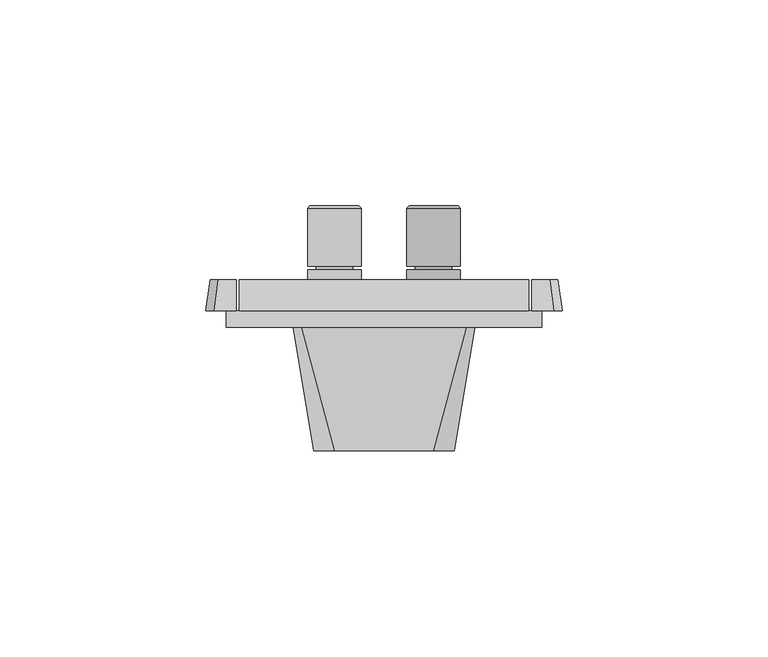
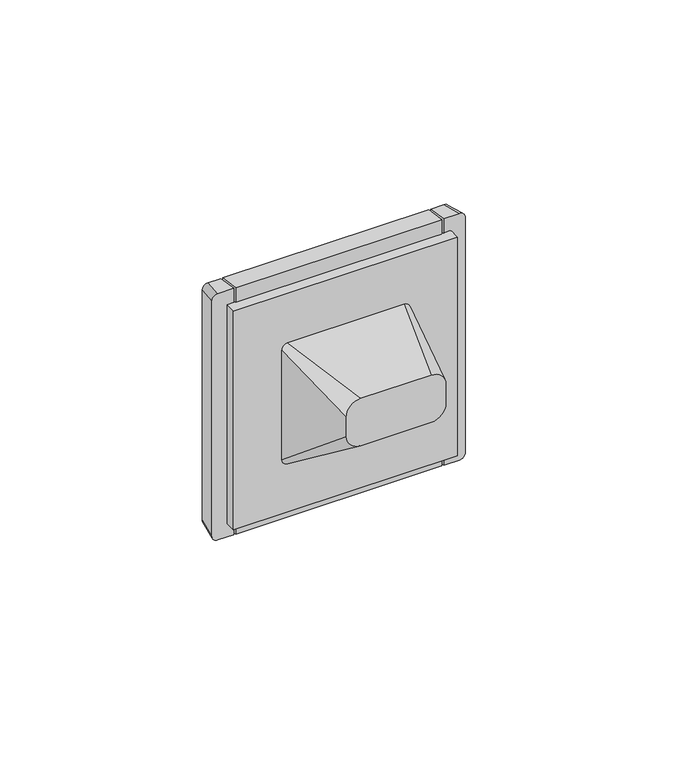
"""IFC4 building model written with IfcOpenShell, lengths in millimetres: proxy geometry, IEK_Forte&Piano_Розекта мультимедийная : АС_FP139."""

from ifc_helpers import new_model, si_unit, point, frame, origin, place, context, project, spatial, polyline, circle_curve, trimmed, faceted_brep, source, transform, mapped, element, save
from ifc_brep_helpers import plane_surface, cylinder_surface, revolved_surface, extruded_surface, spline_surface, advanced_brep


def electrical_fixtures_4fc81f4c(model_context):
    return source(origin(), model_context, "Body", "SolidModel", [
        advanced_brep(
        [(-18.5532632, 11.5, -13.75), (-5.5708837, 11.5, -13.75), (-8.6401103, 11.5, -13.75), (-15.4840366, 11.5, -13.75), (-8.6401103, 29.4463072, -13.75), (-15.4840366, 29.4463072, -13.75), (-6.1425627, 29.4463072, -13.75), (-17.9815842, 29.4463072, -13.75), (-5.5708837, 28.8746282, -13.75), (-18.5532632, 28.8746282, -13.75), (-5.5708837, 14.794806, -13.75), (-18.5532632, 14.794806, -13.75), (-7.6404981, 14.794806, -13.75), (-16.4836488, 14.794806, -13.75), (-7.6404981, 13.9143578, -13.75), (-16.4836488, 13.9143578, -13.75), (-5.5708837, 13.9143578, -13.75), (-18.5532632, 13.9143578, -13.75)],
        [
            (0, 1, circle_curve(frame((-12.0620735, 11.5, -13.75), z_axis=(0.0, -1.0, 0.0), x_axis=(-1.0, 0.0, 0.0)), 6.4911898)),
            (1, 0, circle_curve(frame((-12.0620735, 11.5, -13.75), z_axis=(0.0, -1.0, 0.0), x_axis=(-1.0, 0.0, 0.0)), 6.4911898)),
            (2, 3, circle_curve(frame((-12.0620735, 11.5, -13.75), z_axis=(0.0, 1.0, 0.0), x_axis=(-1.0, 0.0, 0.0)), 3.4219631)),
            (3, 2, circle_curve(frame((-12.0620735, 11.5, -13.75), z_axis=(0.0, 1.0, 0.0), x_axis=(-1.0, 0.0, 0.0)), 3.4219631)),
            (4, 5, circle_curve(frame((-12.0620735, 29.4463072, -13.75), z_axis=(0.0, 1.0, 0.0), x_axis=(-1.0, 0.0, 0.0)), 3.4219631)),
            (5, 3),
            (2, 4),
            (5, 4, circle_curve(frame((-12.0620735, 29.4463072, -13.75), z_axis=(0.0, 1.0, 0.0), x_axis=(-1.0, 0.0, 0.0)), 3.4219631)),
            (4, 6),
            (6, 7, circle_curve(frame((-12.0620735, 29.4463072, -13.75), z_axis=(0.0, 1.0, 0.0), x_axis=(-1.0, 0.0, 0.0)), 5.9195108)),
            (7, 5),
            (7, 6, circle_curve(frame((-12.0620735, 29.4463072, -13.75), z_axis=(0.0, 1.0, 0.0), x_axis=(-1.0, 0.0, 0.0)), 5.9195108)),
            (6, 8),
            (8, 9, circle_curve(frame((-12.0620735, 28.8746282, -13.75), z_axis=(0.0, 1.0, 0.0), x_axis=(-1.0, 0.0, 0.0)), 6.4911898)),
            (9, 7),
            (9, 8, circle_curve(frame((-12.0620735, 28.8746282, -13.75), z_axis=(0.0, 1.0, 0.0), x_axis=(-1.0, 0.0, 0.0)), 6.4911898)),
            (8, 10),
            (10, 11, circle_curve(frame((-12.0620735, 14.794806, -13.75), z_axis=(0.0, 1.0, 0.0), x_axis=(-1.0, 0.0, 0.0)), 6.4911898)),
            (11, 9),
            (11, 10, circle_curve(frame((-12.0620735, 14.794806, -13.75), z_axis=(0.0, 1.0, 0.0), x_axis=(-1.0, 0.0, 0.0)), 6.4911898)),
            (10, 12),
            (12, 13, circle_curve(frame((-12.0620735, 14.794806, -13.75), z_axis=(0.0, 1.0, 0.0), x_axis=(-1.0, 0.0, 0.0)), 4.4215754)),
            (13, 11),
            (13, 12, circle_curve(frame((-12.0620735, 14.794806, -13.75), z_axis=(0.0, 1.0, 0.0), x_axis=(-1.0, 0.0, 0.0)), 4.4215754)),
            (12, 14),
            (14, 15, circle_curve(frame((-12.0620735, 13.9143578, -13.75), z_axis=(0.0, 1.0, 0.0), x_axis=(-1.0, 0.0, 0.0)), 4.4215754)),
            (15, 13),
            (15, 14, circle_curve(frame((-12.0620735, 13.9143578, -13.75), z_axis=(0.0, 1.0, 0.0), x_axis=(-1.0, 0.0, 0.0)), 4.4215754)),
            (14, 16),
            (16, 17, circle_curve(frame((-12.0620735, 13.9143578, -13.75), z_axis=(0.0, 1.0, 0.0), x_axis=(-1.0, 0.0, 0.0)), 6.4911898)),
            (17, 15),
            (17, 16, circle_curve(frame((-12.0620735, 13.9143578, -13.75), z_axis=(0.0, 1.0, 0.0), x_axis=(-1.0, 0.0, 0.0)), 6.4911898)),
            (16, 1),
            (0, 17),
        ],
        [
            plane_surface(frame((19.0620735, 11.5, 14.7159622), z_axis=(0.0, -1.0, 0.0), x_axis=(0.0, 0.0, -1.0))),
            revolved_surface(polyline([(-15.4840366, 11.5, -13.75), (-15.4840366, 29.4463072, -13.75)]), (-12.0620735, 5.365818, -13.75), (0.0, -1.0, 0.0)),
            plane_surface(frame((-12.0620735, 29.4463072, -13.75), z_axis=(0.0, 1.0, 0.0), x_axis=(-1.0, 0.0, 0.0))),
            revolved_surface(polyline([(-17.9815842, 29.4463072, -13.75), (-18.5532632, 28.8746282, -13.75)]), (-12.0620735, 5.365818, -13.75), (0.0, -1.0, 0.0)),
            cylinder_surface(frame((-12.0620735, 5.365818, -13.75), z_axis=(0.0, -1.0, 0.0), x_axis=(-1.0, 0.0, 0.0)), 6.4911898),
            plane_surface(frame((-12.0620735, 14.794806, -13.75), z_axis=(0.0, -1.0, 0.0), x_axis=(-1.0, 0.0, 0.0))),
            cylinder_surface(frame((-12.0620735, 5.365818, -13.75), z_axis=(0.0, -1.0, 0.0), x_axis=(-1.0, 0.0, 0.0)), 4.4215754),
            plane_surface(frame((-12.0620735, 13.9143578, -13.75), z_axis=(0.0, 1.0, 0.0), x_axis=(-1.0, 0.0, 0.0))),
        ],
        [
            (0, [[1, 2], [3, 4]]),
            (1, [[5, 6, -3, 7]]),
            (1, [[-6, 8, -7, -4]]),
            (2, [[-5, 9, 10, 11]]),
            (2, [[-8, -11, 12, -9]]),
            (3, [[-10, 13, 14, 15]]),
            (3, [[-12, -15, 16, -13]]),
            (4, [[-14, 17, 18, 19]]),
            (4, [[-16, -19, 20, -17]]),
            (5, [[-18, 21, 22, 23]]),
            (5, [[-20, -23, 24, -21]]),
            (6, [[-22, 25, 26, 27]]),
            (6, [[-24, -27, 28, -25]]),
            (7, [[-26, 29, 30, 31]]),
            (7, [[-28, -31, 32, -29]]),
            (4, [[-30, 33, -1, 34]]),
            (4, [[-32, -34, -2, -33]]),
        ],
    ),
        advanced_brep(
        [(5.5708837, 11.5, -13.75), (18.5532632, 11.5, -13.75), (15.4840366, 11.5, -13.75), (8.6401103, 11.5, -13.75), (15.4840366, 29.4463072, -13.75), (8.6401103, 29.4463072, -13.75), (17.9815842, 29.4463072, -13.75), (6.1425627, 29.4463072, -13.75), (18.5532632, 28.8746282, -13.75), (5.5708837, 28.8746282, -13.75), (18.5532632, 14.794806, -13.75), (5.5708837, 14.794806, -13.75), (16.4836488, 14.794806, -13.75), (7.6404981, 14.794806, -13.75), (16.4836488, 13.9143578, -13.75), (7.6404981, 13.9143578, -13.75), (18.5532632, 13.9143578, -13.75), (5.5708837, 13.9143578, -13.75)],
        [
            (0, 1, circle_curve(frame((12.0620735, 11.5, -13.75), z_axis=(0.0, -1.0, 0.0), x_axis=(1.0, 0.0, 0.0)), 6.4911898)),
            (1, 0, circle_curve(frame((12.0620735, 11.5, -13.75), z_axis=(0.0, -1.0, 0.0), x_axis=(1.0, 0.0, 0.0)), 6.4911898)),
            (2, 3, circle_curve(frame((12.0620735, 11.5, -13.75), z_axis=(0.0, 1.0, 0.0), x_axis=(1.0, 0.0, 0.0)), 3.4219631)),
            (3, 2, circle_curve(frame((12.0620735, 11.5, -13.75), z_axis=(0.0, 1.0, 0.0), x_axis=(1.0, 0.0, 0.0)), 3.4219631)),
            (2, 4),
            (4, 5, circle_curve(frame((12.0620735, 29.4463072, -13.75), z_axis=(0.0, 1.0, 0.0), x_axis=(1.0, 0.0, 0.0)), 3.4219631)),
            (5, 3),
            (5, 4, circle_curve(frame((12.0620735, 29.4463072, -13.75), z_axis=(0.0, 1.0, 0.0), x_axis=(1.0, 0.0, 0.0)), 3.4219631)),
            (4, 6),
            (6, 7, circle_curve(frame((12.0620735, 29.4463072, -13.75), z_axis=(0.0, 1.0, 0.0), x_axis=(1.0, 0.0, 0.0)), 5.9195108)),
            (7, 5),
            (7, 6, circle_curve(frame((12.0620735, 29.4463072, -13.75), z_axis=(0.0, 1.0, 0.0), x_axis=(1.0, 0.0, 0.0)), 5.9195108)),
            (6, 8),
            (8, 9, circle_curve(frame((12.0620735, 28.8746282, -13.75), z_axis=(0.0, 1.0, 0.0), x_axis=(1.0, 0.0, 0.0)), 6.4911898)),
            (9, 7),
            (9, 8, circle_curve(frame((12.0620735, 28.8746282, -13.75), z_axis=(0.0, 1.0, 0.0), x_axis=(1.0, 0.0, 0.0)), 6.4911898)),
            (8, 10),
            (10, 11, circle_curve(frame((12.0620735, 14.794806, -13.75), z_axis=(0.0, 1.0, 0.0), x_axis=(1.0, 0.0, 0.0)), 6.4911898)),
            (11, 9),
            (11, 10, circle_curve(frame((12.0620735, 14.794806, -13.75), z_axis=(0.0, 1.0, 0.0), x_axis=(1.0, 0.0, 0.0)), 6.4911898)),
            (10, 12),
            (12, 13, circle_curve(frame((12.0620735, 14.794806, -13.75), z_axis=(0.0, 1.0, 0.0), x_axis=(1.0, 0.0, 0.0)), 4.4215754)),
            (13, 11),
            (13, 12, circle_curve(frame((12.0620735, 14.794806, -13.75), z_axis=(0.0, 1.0, 0.0), x_axis=(1.0, 0.0, 0.0)), 4.4215754)),
            (12, 14),
            (14, 15, circle_curve(frame((12.0620735, 13.9143578, -13.75), z_axis=(0.0, 1.0, 0.0), x_axis=(1.0, 0.0, 0.0)), 4.4215754)),
            (15, 13),
            (15, 14, circle_curve(frame((12.0620735, 13.9143578, -13.75), z_axis=(0.0, 1.0, 0.0), x_axis=(1.0, 0.0, 0.0)), 4.4215754)),
            (14, 16),
            (16, 17, circle_curve(frame((12.0620735, 13.9143578, -13.75), z_axis=(0.0, 1.0, 0.0), x_axis=(1.0, 0.0, 0.0)), 6.4911898)),
            (17, 15),
            (17, 16, circle_curve(frame((12.0620735, 13.9143578, -13.75), z_axis=(0.0, 1.0, 0.0), x_axis=(1.0, 0.0, 0.0)), 6.4911898)),
            (16, 1),
            (0, 17),
        ],
        [
            plane_surface(frame((19.0620735, 11.5, 14.7159622), z_axis=(0.0, -1.0, 0.0), x_axis=(0.0, 0.0, -1.0))),
            revolved_surface(polyline([(15.4840366, 29.4463072, -13.75), (15.4840366, 11.5, -13.75)]), (12.0620735, 5.365818, -13.75), (0.0, 1.0, 0.0)),
            plane_surface(frame((12.0620735, 29.4463072, -13.75), z_axis=(0.0, 1.0, 0.0), x_axis=(1.0, 0.0, 0.0))),
            revolved_surface(polyline([(18.5532632, 28.8746282, -13.75), (17.9815842, 29.4463072, -13.75)]), (12.0620735, 5.365818, -13.75), (0.0, 1.0, 0.0)),
            cylinder_surface(frame((12.0620735, 5.365818, -13.75), z_axis=(0.0, 1.0, 0.0), x_axis=(1.0, 0.0, 0.0)), 6.4911898),
            plane_surface(frame((12.0620735, 14.794806, -13.75), z_axis=(0.0, -1.0, 0.0), x_axis=(1.0, 0.0, 0.0))),
            cylinder_surface(frame((12.0620735, 5.365818, -13.75), z_axis=(0.0, 1.0, 0.0), x_axis=(1.0, 0.0, 0.0)), 4.4215754),
            plane_surface(frame((12.0620735, 13.9143578, -13.75), z_axis=(0.0, 1.0, 0.0), x_axis=(1.0, 0.0, 0.0))),
        ],
        [
            (0, [[1, 2], [3, 4]]),
            (1, [[5, 6, 7, -3]]),
            (1, [[-5, -4, -7, 8]]),
            (2, [[-6, 9, 10, 11]]),
            (2, [[-8, -11, 12, -9]]),
            (3, [[-10, 13, 14, 15]]),
            (3, [[-12, -15, 16, -13]]),
            (4, [[-14, 17, 18, 19]]),
            (4, [[-16, -19, 20, -17]]),
            (5, [[-18, 21, 22, 23]]),
            (5, [[-20, -23, 24, -21]]),
            (6, [[-22, 25, 26, 27]]),
            (6, [[-24, -27, 28, -25]]),
            (7, [[-26, 29, 30, 31]]),
            (7, [[-28, -31, 32, -29]]),
            (4, [[-30, 33, -1, 34]]),
            (4, [[-32, -34, -2, -33]]),
        ],
    ),
        advanced_brep(
        [(-18.5532632, 11.5, 14.7159622), (-5.5708837, 11.5, 14.7159622), (-8.6401103, 11.5, 14.7159622), (-15.4840366, 11.5, 14.7159622), (-8.6401103, 29.4463072, 14.7159622), (-15.4840366, 29.4463072, 14.7159622), (-6.1425627, 29.4463072, 14.7159622), (-17.9815842, 29.4463072, 14.7159622), (-5.5708837, 28.8746282, 14.7159622), (-18.5532632, 28.8746282, 14.7159622), (-5.5708837, 14.794806, 14.7159622), (-18.5532632, 14.794806, 14.7159622), (-7.6404981, 14.794806, 14.7159622), (-16.4836488, 14.794806, 14.7159622), (-7.6404981, 13.9143578, 14.7159622), (-16.4836488, 13.9143578, 14.7159622), (-5.5708837, 13.9143578, 14.7159622), (-18.5532632, 13.9143578, 14.7159622)],
        [
            (0, 1, circle_curve(frame((-12.0620735, 11.5, 14.7159622), z_axis=(0.0, -1.0, 0.0), x_axis=(-1.0, 0.0, 0.0)), 6.4911898)),
            (1, 0, circle_curve(frame((-12.0620735, 11.5, 14.7159622), z_axis=(0.0, -1.0, 0.0), x_axis=(-1.0, 0.0, 0.0)), 6.4911898)),
            (2, 3, circle_curve(frame((-12.0620735, 11.5, 14.7159622), z_axis=(0.0, 1.0, 0.0), x_axis=(-1.0, 0.0, 0.0)), 3.4219631)),
            (3, 2, circle_curve(frame((-12.0620735, 11.5, 14.7159622), z_axis=(0.0, 1.0, 0.0), x_axis=(-1.0, 0.0, 0.0)), 3.4219631)),
            (4, 5, circle_curve(frame((-12.0620735, 29.4463072, 14.7159622), z_axis=(0.0, 1.0, 0.0), x_axis=(-1.0, 0.0, 0.0)), 3.4219631)),
            (5, 3),
            (2, 4),
            (5, 4, circle_curve(frame((-12.0620735, 29.4463072, 14.7159622), z_axis=(0.0, 1.0, 0.0), x_axis=(-1.0, 0.0, 0.0)), 3.4219631)),
            (4, 6),
            (6, 7, circle_curve(frame((-12.0620735, 29.4463072, 14.7159622), z_axis=(0.0, 1.0, 0.0), x_axis=(-1.0, 0.0, 0.0)), 5.9195108)),
            (7, 5),
            (7, 6, circle_curve(frame((-12.0620735, 29.4463072, 14.7159622), z_axis=(0.0, 1.0, 0.0), x_axis=(-1.0, 0.0, 0.0)), 5.9195108)),
            (6, 8),
            (8, 9, circle_curve(frame((-12.0620735, 28.8746282, 14.7159622), z_axis=(0.0, 1.0, 0.0), x_axis=(-1.0, 0.0, 0.0)), 6.4911898)),
            (9, 7),
            (9, 8, circle_curve(frame((-12.0620735, 28.8746282, 14.7159622), z_axis=(0.0, 1.0, 0.0), x_axis=(-1.0, 0.0, 0.0)), 6.4911898)),
            (8, 10),
            (10, 11, circle_curve(frame((-12.0620735, 14.794806, 14.7159622), z_axis=(0.0, 1.0, 0.0), x_axis=(-1.0, 0.0, 0.0)), 6.4911898)),
            (11, 9),
            (11, 10, circle_curve(frame((-12.0620735, 14.794806, 14.7159622), z_axis=(0.0, 1.0, 0.0), x_axis=(-1.0, 0.0, 0.0)), 6.4911898)),
            (10, 12),
            (12, 13, circle_curve(frame((-12.0620735, 14.794806, 14.7159622), z_axis=(0.0, 1.0, 0.0), x_axis=(-1.0, 0.0, 0.0)), 4.4215754)),
            (13, 11),
            (13, 12, circle_curve(frame((-12.0620735, 14.794806, 14.7159622), z_axis=(0.0, 1.0, 0.0), x_axis=(-1.0, 0.0, 0.0)), 4.4215754)),
            (12, 14),
            (14, 15, circle_curve(frame((-12.0620735, 13.9143578, 14.7159622), z_axis=(0.0, 1.0, 0.0), x_axis=(-1.0, 0.0, 0.0)), 4.4215754)),
            (15, 13),
            (15, 14, circle_curve(frame((-12.0620735, 13.9143578, 14.7159622), z_axis=(0.0, 1.0, 0.0), x_axis=(-1.0, 0.0, 0.0)), 4.4215754)),
            (14, 16),
            (16, 17, circle_curve(frame((-12.0620735, 13.9143578, 14.7159622), z_axis=(0.0, 1.0, 0.0), x_axis=(-1.0, 0.0, 0.0)), 6.4911898)),
            (17, 15),
            (17, 16, circle_curve(frame((-12.0620735, 13.9143578, 14.7159622), z_axis=(0.0, 1.0, 0.0), x_axis=(-1.0, 0.0, 0.0)), 6.4911898)),
            (16, 1),
            (0, 17),
        ],
        [
            plane_surface(frame((19.0620735, 11.5, 14.7159622), z_axis=(0.0, -1.0, 0.0), x_axis=(0.0, 0.0, -1.0))),
            revolved_surface(polyline([(-15.4840366, 11.5, 14.7159622), (-15.4840366, 29.4463072, 14.7159622)]), (-12.0620735, 5.365818, 14.7159622), (0.0, -1.0, 0.0)),
            plane_surface(frame((-12.0620735, 29.4463072, 14.7159622), z_axis=(0.0, 1.0, 0.0), x_axis=(-1.0, 0.0, 0.0))),
            revolved_surface(polyline([(-17.9815842, 29.4463072, 14.7159622), (-18.5532632, 28.8746282, 14.7159622)]), (-12.0620735, 5.365818, 14.7159622), (0.0, -1.0, 0.0)),
            cylinder_surface(frame((-12.0620735, 5.365818, 14.7159622), z_axis=(0.0, -1.0, 0.0), x_axis=(-1.0, 0.0, 0.0)), 6.4911898),
            plane_surface(frame((-12.0620735, 14.794806, 14.7159622), z_axis=(0.0, -1.0, 0.0), x_axis=(-1.0, 0.0, 0.0))),
            cylinder_surface(frame((-12.0620735, 5.365818, 14.7159622), z_axis=(0.0, -1.0, 0.0), x_axis=(-1.0, 0.0, 0.0)), 4.4215754),
            plane_surface(frame((-12.0620735, 13.9143578, 14.7159622), z_axis=(0.0, 1.0, 0.0), x_axis=(-1.0, 0.0, 0.0))),
        ],
        [
            (0, [[1, 2], [3, 4]]),
            (1, [[5, 6, -3, 7]]),
            (1, [[-6, 8, -7, -4]]),
            (2, [[-5, 9, 10, 11]]),
            (2, [[-8, -11, 12, -9]]),
            (3, [[-10, 13, 14, 15]]),
            (3, [[-12, -15, 16, -13]]),
            (4, [[-14, 17, 18, 19]]),
            (4, [[-16, -19, 20, -17]]),
            (5, [[-18, 21, 22, 23]]),
            (5, [[-20, -23, 24, -21]]),
            (6, [[-22, 25, 26, 27]]),
            (6, [[-24, -27, 28, -25]]),
            (7, [[-26, 29, 30, 31]]),
            (7, [[-28, -31, 32, -29]]),
            (4, [[-30, 33, -1, 34]]),
            (4, [[-32, -34, -2, -33]]),
        ],
    ),
        advanced_brep(
        [(5.5708837, 11.5, 14.7159622), (18.5532632, 11.5, 14.7159622), (15.4840366, 11.5, 14.7159622), (8.6401103, 11.5, 14.7159622), (15.4840366, 29.4463072, 14.7159622), (8.6401103, 29.4463072, 14.7159622), (17.9815842, 29.4463072, 14.7159622), (6.1425627, 29.4463072, 14.7159622), (18.5532632, 28.8746282, 14.7159622), (5.5708837, 28.8746282, 14.7159622), (18.5532632, 14.794806, 14.7159622), (5.5708837, 14.794806, 14.7159622), (16.4836488, 14.794806, 14.7159622), (7.6404981, 14.794806, 14.7159622), (16.4836488, 13.9143578, 14.7159622), (7.6404981, 13.9143578, 14.7159622), (18.5532632, 13.9143578, 14.7159622), (5.5708837, 13.9143578, 14.7159622)],
        [
            (0, 1, circle_curve(frame((12.0620735, 11.5, 14.7159622), z_axis=(0.0, -1.0, 0.0), x_axis=(1.0, 0.0, 0.0)), 6.4911898)),
            (1, 0, circle_curve(frame((12.0620735, 11.5, 14.7159622), z_axis=(0.0, -1.0, 0.0), x_axis=(1.0, 0.0, 0.0)), 6.4911898)),
            (2, 3, circle_curve(frame((12.0620735, 11.5, 14.7159622), z_axis=(0.0, 1.0, 0.0), x_axis=(1.0, 0.0, 0.0)), 3.4219631)),
            (3, 2, circle_curve(frame((12.0620735, 11.5, 14.7159622), z_axis=(0.0, 1.0, 0.0), x_axis=(1.0, 0.0, 0.0)), 3.4219631)),
            (2, 4),
            (4, 5, circle_curve(frame((12.0620735, 29.4463072, 14.7159622), z_axis=(0.0, 1.0, 0.0), x_axis=(1.0, 0.0, 0.0)), 3.4219631)),
            (5, 3),
            (5, 4, circle_curve(frame((12.0620735, 29.4463072, 14.7159622), z_axis=(0.0, 1.0, 0.0), x_axis=(1.0, 0.0, 0.0)), 3.4219631)),
            (4, 6),
            (6, 7, circle_curve(frame((12.0620735, 29.4463072, 14.7159622), z_axis=(0.0, 1.0, 0.0), x_axis=(1.0, 0.0, 0.0)), 5.9195108)),
            (7, 5),
            (7, 6, circle_curve(frame((12.0620735, 29.4463072, 14.7159622), z_axis=(0.0, 1.0, 0.0), x_axis=(1.0, 0.0, 0.0)), 5.9195108)),
            (6, 8),
            (8, 9, circle_curve(frame((12.0620735, 28.8746282, 14.7159622), z_axis=(0.0, 1.0, 0.0), x_axis=(1.0, 0.0, 0.0)), 6.4911898)),
            (9, 7),
            (9, 8, circle_curve(frame((12.0620735, 28.8746282, 14.7159622), z_axis=(0.0, 1.0, 0.0), x_axis=(1.0, 0.0, 0.0)), 6.4911898)),
            (8, 10),
            (10, 11, circle_curve(frame((12.0620735, 14.794806, 14.7159622), z_axis=(0.0, 1.0, 0.0), x_axis=(1.0, 0.0, 0.0)), 6.4911898)),
            (11, 9),
            (11, 10, circle_curve(frame((12.0620735, 14.794806, 14.7159622), z_axis=(0.0, 1.0, 0.0), x_axis=(1.0, 0.0, 0.0)), 6.4911898)),
            (10, 12),
            (12, 13, circle_curve(frame((12.0620735, 14.794806, 14.7159622), z_axis=(0.0, 1.0, 0.0), x_axis=(1.0, 0.0, 0.0)), 4.4215754)),
            (13, 11),
            (13, 12, circle_curve(frame((12.0620735, 14.794806, 14.7159622), z_axis=(0.0, 1.0, 0.0), x_axis=(1.0, 0.0, 0.0)), 4.4215754)),
            (12, 14),
            (14, 15, circle_curve(frame((12.0620735, 13.9143578, 14.7159622), z_axis=(0.0, 1.0, 0.0), x_axis=(1.0, 0.0, 0.0)), 4.4215754)),
            (15, 13),
            (15, 14, circle_curve(frame((12.0620735, 13.9143578, 14.7159622), z_axis=(0.0, 1.0, 0.0), x_axis=(1.0, 0.0, 0.0)), 4.4215754)),
            (14, 16),
            (16, 17, circle_curve(frame((12.0620735, 13.9143578, 14.7159622), z_axis=(0.0, 1.0, 0.0), x_axis=(1.0, 0.0, 0.0)), 6.4911898)),
            (17, 15),
            (17, 16, circle_curve(frame((12.0620735, 13.9143578, 14.7159622), z_axis=(0.0, 1.0, 0.0), x_axis=(1.0, 0.0, 0.0)), 6.4911898)),
            (16, 1),
            (0, 17),
        ],
        [
            plane_surface(frame((19.0620735, 11.5, 14.7159622), z_axis=(0.0, -1.0, 0.0), x_axis=(0.0, 0.0, -1.0))),
            revolved_surface(polyline([(15.4840366, 29.4463072, 14.7159622), (15.4840366, 11.5, 14.7159622)]), (12.0620735, 5.365818, 14.7159622), (0.0, 1.0, 0.0)),
            plane_surface(frame((12.0620735, 29.4463072, 14.7159622), z_axis=(0.0, 1.0, 0.0), x_axis=(1.0, 0.0, 0.0))),
            revolved_surface(polyline([(18.5532632, 28.8746282, 14.7159622), (17.9815842, 29.4463072, 14.7159622)]), (12.0620735, 5.365818, 14.7159622), (0.0, 1.0, 0.0)),
            cylinder_surface(frame((12.0620735, 5.365818, 14.7159622), z_axis=(0.0, 1.0, 0.0), x_axis=(1.0, 0.0, 0.0)), 6.4911898),
            plane_surface(frame((12.0620735, 14.794806, 14.7159622), z_axis=(0.0, -1.0, 0.0), x_axis=(1.0, 0.0, 0.0))),
            cylinder_surface(frame((12.0620735, 5.365818, 14.7159622), z_axis=(0.0, 1.0, 0.0), x_axis=(1.0, 0.0, 0.0)), 4.4215754),
            plane_surface(frame((12.0620735, 13.9143578, 14.7159622), z_axis=(0.0, 1.0, 0.0), x_axis=(1.0, 0.0, 0.0))),
        ],
        [
            (0, [[1, 2], [3, 4]]),
            (1, [[5, 6, 7, -3]]),
            (1, [[-5, -4, -7, 8]]),
            (2, [[-6, 9, 10, 11]]),
            (2, [[-8, -11, 12, -9]]),
            (3, [[-10, 13, 14, 15]]),
            (3, [[-12, -15, 16, -13]]),
            (4, [[-14, 17, 18, 19]]),
            (4, [[-16, -19, 20, -17]]),
            (5, [[-18, 21, 22, 23]]),
            (5, [[-20, -23, 24, -21]]),
            (6, [[-22, 25, 26, 27]]),
            (6, [[-24, -27, 28, -25]]),
            (7, [[-26, 29, 30, 31]]),
            (7, [[-28, -31, 32, -29]]),
            (4, [[-30, 33, -1, 34]]),
            (4, [[-32, -34, -2, -33]]),
        ],
    ),
        advanced_brep(
        [(-22.7, 11.5, 22.7), (22.7, 11.5, 22.7), (22.7, 11.5, -22.7), (-22.7, 11.5, -22.7), (19.0620735, 11.5, 14.7159622), (5.0620735, 11.5, 14.7159622), (-5.0620735, 11.5, 14.7159622), (-19.0620735, 11.5, 14.7159622), (19.0620735, 11.5, -13.75), (5.0620735, 11.5, -13.75), (-5.0620735, 11.5, -13.75), (-19.0620735, 11.5, -13.75), (-22.7, 4.0, 22.7), (-22.7, 4.0, -22.7), (22.7, 4.0, -22.7), (22.7, 4.0, 22.7), (5.0620735, 5.365818, 14.7159622), (19.0620735, 5.365818, 14.7159622), (-19.0620735, 5.365818, 14.7159622), (-5.0620735, 5.365818, 14.7159622), (5.0620735, 5.365818, -13.75), (19.0620735, 5.365818, -13.75), (-19.0620735, 5.365818, -13.75), (-5.0620735, 5.365818, -13.75)],
        [
            (0, 1),
            (1, 2),
            (2, 3),
            (3, 0),
            (4, 5, circle_curve(frame((12.0620735, 11.5, 14.7159622), z_axis=(0.0, -1.0, 0.0), x_axis=(1.0, 0.0, 0.0)), 7.0)),
            (5, 4, circle_curve(frame((12.0620735, 11.5, 14.7159622), z_axis=(0.0, -1.0, 0.0), x_axis=(1.0, 0.0, 0.0)), 7.0)),
            (6, 7, circle_curve(frame((-12.0620735, 11.5, 14.7159622), z_axis=(0.0, -1.0, 0.0), x_axis=(1.0, 0.0, 0.0)), 7.0)),
            (7, 6, circle_curve(frame((-12.0620735, 11.5, 14.7159622), z_axis=(0.0, -1.0, 0.0), x_axis=(1.0, 0.0, 0.0)), 7.0)),
            (8, 9, circle_curve(frame((12.0620735, 11.5, -13.75), z_axis=(0.0, -1.0, 0.0), x_axis=(1.0, 0.0, 0.0)), 7.0)),
            (9, 8, circle_curve(frame((12.0620735, 11.5, -13.75), z_axis=(0.0, -1.0, 0.0), x_axis=(1.0, 0.0, 0.0)), 7.0)),
            (10, 11, circle_curve(frame((-12.0620735, 11.5, -13.75), z_axis=(0.0, -1.0, 0.0), x_axis=(1.0, 0.0, 0.0)), 7.0)),
            (11, 10, circle_curve(frame((-12.0620735, 11.5, -13.75), z_axis=(0.0, -1.0, 0.0), x_axis=(1.0, 0.0, 0.0)), 7.0)),
            (12, 13),
            (13, 14),
            (14, 15),
            (15, 12),
            (16, 17, circle_curve(frame((12.0620735, 5.365818, 14.7159622), z_axis=(0.0, 1.0, 0.0), x_axis=(1.0, 0.0, 0.0)), 7.0)),
            (17, 16, circle_curve(frame((12.0620735, 5.365818, 14.7159622), z_axis=(0.0, 1.0, 0.0), x_axis=(1.0, 0.0, 0.0)), 7.0)),
            (18, 19, circle_curve(frame((-12.0620735, 5.365818, 14.7159622), z_axis=(0.0, 1.0, 0.0), x_axis=(1.0, 0.0, 0.0)), 7.0)),
            (19, 18, circle_curve(frame((-12.0620735, 5.365818, 14.7159622), z_axis=(0.0, 1.0, 0.0), x_axis=(1.0, 0.0, 0.0)), 7.0)),
            (20, 21, circle_curve(frame((12.0620735, 5.365818, -13.75), z_axis=(0.0, 1.0, 0.0), x_axis=(1.0, 0.0, 0.0)), 7.0)),
            (21, 20, circle_curve(frame((12.0620735, 5.365818, -13.75), z_axis=(0.0, 1.0, 0.0), x_axis=(1.0, 0.0, 0.0)), 7.0)),
            (22, 23, circle_curve(frame((-12.0620735, 5.365818, -13.75), z_axis=(0.0, 1.0, 0.0), x_axis=(1.0, 0.0, 0.0)), 7.0)),
            (23, 22, circle_curve(frame((-12.0620735, 5.365818, -13.75), z_axis=(0.0, 1.0, 0.0), x_axis=(1.0, 0.0, 0.0)), 7.0)),
            (16, 5),
            (4, 17),
            (18, 7),
            (6, 19),
            (20, 9),
            (8, 21),
            (22, 11),
            (10, 23),
            (3, 13),
            (12, 0),
            (2, 14),
            (1, 15),
        ],
        [
            plane_surface(frame((-22.7, 11.5, 22.7), z_axis=(0.0, 1.0, 0.0), x_axis=(0.0, 0.0, 1.0))),
            plane_surface(frame((-22.7, 4.0, 22.7), z_axis=(0.0, -1.0, 0.0), x_axis=(0.0, 0.0, -1.0))),
            plane_surface(frame((19.0620735, 5.365818, 14.7159622), z_axis=(0.0, 1.0, 0.0), x_axis=(0.0, 0.0, 1.0))),
            revolved_surface(polyline([(19.0620735, 11.5, 14.7159622), (19.0620735, 5.365818, 14.7159622)]), (12.0620735, 5.365818, 14.7159622), (0.0, 1.0, 0.0)),
            revolved_surface(polyline([(-5.0620735, 11.5, 14.7159622), (-5.0620735, 5.365818, 14.7159622)]), (-12.0620735, 11.5, 14.7159622), (0.0, 1.0, 0.0)),
            revolved_surface(polyline([(19.0620735, 11.5, -13.75), (19.0620735, 5.365818, -13.75)]), (12.0620735, 11.5, -13.75), (0.0, 1.0, 0.0)),
            revolved_surface(polyline([(-5.0620735, 11.5, -13.75), (-5.0620735, 5.365818, -13.75)]), (-12.0620735, 11.5, -13.75), (0.0, 1.0, 0.0)),
            plane_surface(frame((-22.7, 4.0, 22.7), z_axis=(-1.0, 0.0, 0.0), x_axis=(0.0, 1.0, 0.0))),
            plane_surface(frame((-22.7, 4.0, -22.7), z_axis=(0.0, 0.0, -1.0), x_axis=(0.0, 1.0, 0.0))),
            plane_surface(frame((22.7, 4.0, -22.7), z_axis=(1.0, 0.0, 0.0), x_axis=(0.0, 1.0, 0.0))),
            plane_surface(frame((22.7, 4.0, 22.7), z_axis=(0.0, 0.0, 1.0), x_axis=(0.0, 1.0, 0.0))),
        ],
        [
            (0, [[1, 2, 3, 4], [5, 6], [7, 8], [9, 10], [11, 12]]),
            (1, [[13, 14, 15, 16]]),
            (2, [[17, 18]]),
            (2, [[19, 20]]),
            (2, [[21, 22]]),
            (2, [[23, 24]]),
            (3, [[-17, 25, -5, 26]]),
            (3, [[-18, -26, -6, -25]]),
            (4, [[-19, 27, -7, 28]]),
            (4, [[-20, -28, -8, -27]]),
            (5, [[-21, 29, -9, 30]]),
            (5, [[-22, -30, -10, -29]]),
            (6, [[-23, 31, -11, 32]]),
            (6, [[-24, -32, -12, -31]]),
            (7, [[-4, 33, -13, 34]]),
            (8, [[-3, 35, -14, -33]]),
            (9, [[-2, 36, -15, -35]]),
            (10, [[-1, -34, -16, -36]]),
        ],
    ),
        faceted_brep([(35.2, 11.5, 43.5), (35.2, 4.0, 44.5), (35.2, 4.0, -44.5), (35.2, 11.5, -43.5), (-35.2, 11.5, 43.5), (-35.2, 11.5, -43.5), (-35.2, 4.0, -44.5), (-35.2, 4.0, 44.5), (-23.5, 4.0, 23.5), (23.5, 4.0, 23.5), (23.5, 4.0, -23.5), (-23.5, 4.0, -23.5), (23.5, 11.5, 23.5), (-23.5, 11.5, 23.5), (-23.5, 11.5, -23.5), (23.5, 11.5, -23.5)], [[[0, 1, 2, 3]], [[4, 5, 6, 7]], [[1, 0, 4, 7]], [[2, 1, 7, 6], [8, 9, 10, 11]], [[3, 2, 6, 5]], [[0, 3, 5, 4], [12, 13, 14, 15]], [[8, 13, 12, 9]], [[9, 12, 15, 10]], [[10, 15, 14, 11]], [[13, 8, 11, 14]]]),
        advanced_brep(
        [(35.8576533, 11.5, 43.5), (35.8576533, 11.5, -43.5), (35.8576533, 4.0, -44.5), (35.8576533, 4.0, -39.5), (35.8576533, 4.0, 39.5), (35.8576533, 4.0, 44.5), (-35.8576533, 11.5, -43.5), (-35.8576533, 11.5, 43.5), (-35.8576533, 4.0, 44.5), (-35.8576533, 4.0, 39.5), (-35.8576533, 4.0, -39.5), (-35.8576533, 4.0, -44.5), (40.25, 11.5, 43.5), (42.25, 11.5, 41.5), (42.25, 11.5, -41.5), (40.25, 11.5, -43.5), (-40.25, 11.5, -43.5), (-42.25, 11.5, -41.5), (-42.25, 11.5, 41.5), (-40.25, 11.5, 43.5), (-41.25, 4.0, 44.5), (-43.25, 4.0, 42.5), (-43.25, 4.0, -42.5), (-41.25, 4.0, -44.5), (-38.25, 4.0, -39.5), (-38.25, 4.0, 39.5), (41.25, 4.0, -44.5), (43.25, 4.0, -42.5), (43.25, 4.0, 42.5), (41.25, 4.0, 44.5), (38.25, 4.0, 39.5), (38.25, 4.0, -39.5), (-38.25, 0.0, 39.5), (-38.25, 0.0, -39.5), (38.25, 0.0, -39.5), (38.25, 0.0, 39.5)],
        [
            (0, 1),
            (1, 2),
            (2, 3),
            (3, 4),
            (4, 5),
            (5, 0),
            (6, 7),
            (7, 8),
            (8, 9),
            (9, 10),
            (10, 11),
            (11, 6),
            (12, 13, circle_curve(frame((40.25, 11.5, 41.5), z_axis=(0.0, 1.0, 0.0), x_axis=(-1.0, 0.0, 0.0)), 2.0)),
            (13, 14),
            (14, 15, circle_curve(frame((40.25, 11.5, -41.5), z_axis=(0.0, 1.0, 0.0), x_axis=(-1.0, 0.0, 0.0)), 2.0)),
            (15, 1),
            (0, 12),
            (16, 17, circle_curve(frame((-40.25, 11.5, -41.5), z_axis=(0.0, 1.0, 0.0), x_axis=(-1.0, 0.0, 0.0)), 2.0)),
            (17, 18),
            (18, 19, circle_curve(frame((-40.25, 11.5, 41.5), z_axis=(0.0, 1.0, 0.0), x_axis=(-1.0, 0.0, 0.0)), 2.0)),
            (19, 7),
            (6, 16),
            (20, 21, circle_curve(frame((-41.25, 4.0, 42.5), z_axis=(0.0, -1.0, 0.0), x_axis=(-1.0, 0.0, 0.0)), 2.0)),
            (21, 22),
            (22, 23, circle_curve(frame((-41.25, 4.0, -42.5), z_axis=(0.0, -1.0, 0.0), x_axis=(-1.0, 0.0, 0.0)), 2.0)),
            (23, 11),
            (10, 24),
            (24, 25),
            (25, 9),
            (8, 20),
            (26, 27, circle_curve(frame((41.25, 4.0, -42.5), z_axis=(0.0, -1.0, 0.0), x_axis=(-1.0, 0.0, 0.0)), 2.0)),
            (27, 28),
            (28, 29, circle_curve(frame((41.25, 4.0, 42.5), z_axis=(0.0, -1.0, 0.0), x_axis=(-1.0, 0.0, 0.0)), 2.0)),
            (29, 5),
            (4, 30),
            (30, 31),
            (31, 3),
            (2, 26),
            (29, 12),
            (19, 20),
            (28, 13),
            (27, 14),
            (26, 15),
            (23, 16),
            (22, 17),
            (21, 18),
            (3, 10),
            (9, 4),
            (32, 33),
            (33, 34),
            (34, 35),
            (35, 32),
            (32, 25),
            (24, 33),
            (31, 34),
            (30, 35),
        ],
        [
            plane_surface(frame((35.8576533, 11.5, 44.5), z_axis=(-1.0, 0.0, 0.0), x_axis=(0.0, -1.0, 0.0))),
            plane_surface(frame((-35.8576533, 11.5, -44.5), z_axis=(1.0, 0.0, 0.0), x_axis=(0.0, -1.0, 0.0))),
            plane_surface(frame((0.0, 11.5, 0.0), z_axis=(0.0, 1.0, 0.0), x_axis=(1.0, 0.0, 0.0))),
            plane_surface(frame((0.0, 4.0, 0.0), z_axis=(0.0, -1.0, 0.0), x_axis=(1.0, 0.0, 0.0))),
            plane_surface(frame((0.0, 4.0, 44.5), z_axis=(0.0, 0.13216372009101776, 0.9912279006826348), x_axis=(1.0, 0.0, 0.0))),
            extruded_surface(trimmed(circle_curve(frame((41.25, 4.0, 42.5), z_axis=(0.0, 1.0, 0.0), x_axis=(-1.0, 0.0, 0.0)), 2.0), [point((41.25, 4.0, 44.5))], [point((43.25, 4.0, 42.5))], True, "CARTESIAN"), (-1.0, 7.5, -1.0), 7.632168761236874),
            plane_surface(frame((43.25, 4.0, 0.0), z_axis=(0.9912279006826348, 0.13216372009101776, 0.0), x_axis=(0.0, 0.0, -1.0))),
            extruded_surface(trimmed(circle_curve(frame((41.25, 4.0, -42.5), z_axis=(0.0, 1.0, 0.0), x_axis=(-1.0, 0.0, 0.0)), 2.0), [point((43.25, 4.0, -42.5))], [point((41.25, 4.0, -44.5))], True, "CARTESIAN"), (-1.0, 7.5, 1.0), 7.632168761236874),
            plane_surface(frame((0.0, 4.0, -44.5), z_axis=(0.0, 0.13216372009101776, -0.9912279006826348), x_axis=(-1.0, 0.0, 0.0))),
            extruded_surface(trimmed(circle_curve(frame((-41.25, 4.0, -42.5), z_axis=(0.0, 1.0, 0.0), x_axis=(-1.0, 0.0, 0.0)), 2.0), [point((-41.25, 4.0, -44.5))], [point((-43.25, 4.0, -42.5))], True, "CARTESIAN"), (1.0, 7.5, 1.0), 7.632168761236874),
            plane_surface(frame((-43.25, 4.0, 0.0), z_axis=(-0.9912279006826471, 0.13216372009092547, 0.0), x_axis=(0.0, 0.0, 1.0))),
            extruded_surface(trimmed(circle_curve(frame((-41.25, 4.0, 42.5), z_axis=(0.0, 1.0, 0.0), x_axis=(-1.0, 0.0, 0.0)), 2.0), [point((-43.25, 4.0, 42.5))], [point((-41.25, 4.0, 44.5))], True, "CARTESIAN"), (1.0, 7.5, -1.0), 7.632168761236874),
            plane_surface(frame((-38.25, 4.0, 39.5), z_axis=(0.0, 1.0, 0.0), x_axis=(0.0, 0.0, 1.0))),
            plane_surface(frame((-38.25, 0.0, 39.5), z_axis=(0.0, -1.0, 0.0), x_axis=(0.0, 0.0, -1.0))),
            plane_surface(frame((-38.25, 0.0, 39.5), z_axis=(-1.0, 0.0, 0.0), x_axis=(0.0, 1.0, 0.0))),
            plane_surface(frame((-38.25, 0.0, -39.5), z_axis=(0.0, 0.0, -1.0), x_axis=(0.0, 1.0, 0.0))),
            plane_surface(frame((38.25, 0.0, -39.5), z_axis=(1.0, 0.0, 0.0), x_axis=(0.0, 1.0, 0.0))),
            plane_surface(frame((38.25, 0.0, 39.5), z_axis=(0.0, 0.0, 1.0), x_axis=(0.0, 1.0, 0.0))),
        ],
        [
            (0, [[1, 2, 3, 4, 5, 6]]),
            (1, [[7, 8, 9, 10, 11, 12]]),
            (2, [[13, 14, 15, 16, -1, 17]]),
            (2, [[18, 19, 20, 21, -7, 22]]),
            (3, [[23, 24, 25, 26, -11, 27, 28, 29, -9, 30]]),
            (3, [[31, 32, 33, 34, -5, 35, 36, 37, -3, 38]]),
            (4, [[39, -17, -6, -34]]),
            (4, [[40, -30, -8, -21]]),
            (5, [[-13, -39, -33, 41]]),
            (6, [[-14, -41, -32, 42]]),
            (7, [[-15, -42, -31, 43]]),
            (8, [[-43, -38, -2, -16]]),
            (8, [[44, -22, -12, -26]]),
            (9, [[-18, -44, -25, 45]]),
            (10, [[-19, -45, -24, 46]]),
            (11, [[-20, -46, -23, -40]]),
            (12, [[47, -10, 48, -4]]),
            (13, [[49, 50, 51, 52]]),
            (14, [[-49, 53, -28, 54]]),
            (15, [[-50, -54, -27, -47, -37, 55]]),
            (16, [[-51, -55, -36, 56]]),
            (17, [[-52, -56, -35, -48, -29, -53]]),
        ],
    ),
        advanced_brep(
        [(-12.0, -30.0, 17.0), (-17.0, -30.0, 12.0), (-17.0, -30.0, 5.0), (-12.0, -30.0, 0.0), (12.0, -30.0, 0.0), (17.0, -30.0, 5.0), (17.0, -30.0, 12.0), (12.0, -30.0, 17.0), (-20.0, 0.0, 22.0), (20.0, 0.0, 22.0), (22.0, 0.0, 20.0), (22.0, 0.0, -20.0), (20.0, 0.0, -22.0), (-20.0, 0.0, -22.0), (-22.0, 0.0, -20.0), (-22.0, 0.0, 20.0)],
        [
            (0, 1, circle_curve(frame((-12.0, -30.0, 12.0), z_axis=(0.0, -1.0, 0.0), x_axis=(1.0, 0.0, 0.0)), 5.0)),
            (1, 2),
            (2, 3, circle_curve(frame((-12.0, -30.0, 5.0), z_axis=(0.0, -1.0, 0.0), x_axis=(1.0, 0.0, 0.0)), 5.0)),
            (3, 4),
            (4, 5, circle_curve(frame((12.0, -30.0, 5.0), z_axis=(0.0, -1.0, 0.0), x_axis=(1.0, 0.0, 0.0)), 5.0)),
            (5, 6),
            (6, 7, circle_curve(frame((12.0, -30.0, 12.0), z_axis=(0.0, -1.0, 0.0), x_axis=(1.0, 0.0, 0.0)), 5.0)),
            (7, 0),
            (8, 9),
            (9, 10, circle_curve(frame((20.0, 0.0, 20.0), z_axis=(0.0, 1.0, 0.0), x_axis=(1.0, 0.0, 0.0)), 2.0)),
            (10, 11),
            (11, 12, circle_curve(frame((20.0, 0.0, -20.0), z_axis=(0.0, 1.0, 0.0), x_axis=(1.0, 0.0, 0.0)), 2.0)),
            (12, 13),
            (13, 14, circle_curve(frame((-20.0, 0.0, -20.0), z_axis=(0.0, 1.0, 0.0), x_axis=(1.0, 0.0, 0.0)), 2.0)),
            (14, 15),
            (15, 8, circle_curve(frame((-20.0, 0.0, 20.0), z_axis=(0.0, 1.0, 0.0), x_axis=(1.0, 0.0, 0.0)), 2.0)),
            (8, 0),
            (7, 9),
            (6, 10),
            (5, 11),
            (4, 12),
            (3, 13),
            (2, 14),
            (1, 15),
        ],
        [
            plane_surface(frame((0.0, -30.0, 8.5), z_axis=(0.0, -1.0, 0.0), x_axis=(-1.0, 0.0, 0.0))),
            plane_surface(frame((0.0, 0.0, 0.0), z_axis=(0.0, 1.0, 0.0), x_axis=(-1.0, 0.0, 0.0))),
            plane_surface(frame((0.0, 0.0, 22.0), z_axis=(0.0, -0.16439898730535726, 0.9863939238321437), x_axis=(-1.0, 0.0, 0.0))),
            spline_surface(2, 1, [[(22.0, 0.0, 20.0), (17.0, -30.0, 12.0)], [(22.0, 0.0, 22.0), (17.0, -30.0, 17.0)], [(20.0, 0.0, 22.0), (12.0, -30.0, 17.0)]], [3, 3], [2, 2], [0.0, 1.0], [0.0, 1.0], weights=[[1.0, 1.0], [0.7071067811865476, 0.7071067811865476], [1.0, 1.0]]),
            plane_surface(frame((22.0, 0.0, 0.0), z_axis=(0.9863939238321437, -0.1643989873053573, 0.0), x_axis=(0.0, 0.0, 1.0))),
            spline_surface(2, 1, [[(20.0, 0.0, -22.0), (12.0, -30.0, 0.0)], [(22.0, 0.0, -22.0), (17.0, -30.0, 0.0)], [(22.0, 0.0, -20.0), (17.0, -30.0, 5.0)]], [3, 3], [2, 2], [0.0, 1.0], [0.0, 1.0], weights=[[1.0, 1.0], [0.7071067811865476, 0.7071067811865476], [1.0, 1.0]]),
            plane_surface(frame((0.0, 0.0, -22.0), z_axis=(0.0, -0.591363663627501, -0.8064049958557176), x_axis=(1.0, 0.0, 0.0))),
            spline_surface(2, 1, [[(-22.0, 0.0, -20.0), (-17.0, -30.0, 5.0)], [(-22.0, 0.0, -22.0), (-17.0, -30.0, 0.0)], [(-20.0, 0.0, -22.0), (-12.0, -30.0, 0.0)]], [3, 3], [2, 2], [0.0, 1.0], [0.0, 1.0], weights=[[1.0, 1.0], [0.7071067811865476, 0.7071067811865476], [1.0, 1.0]]),
            plane_surface(frame((-22.0, 0.0, 0.0), z_axis=(-0.9863939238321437, -0.1643989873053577, 0.0), x_axis=(0.0, 0.0, -1.0))),
            spline_surface(2, 1, [[(-20.0, 0.0, 22.0), (-12.0, -30.0, 17.0)], [(-22.0, 0.0, 22.0), (-17.0, -30.0, 17.0)], [(-22.0, 0.0, 20.0), (-17.0, -30.0, 12.0)]], [3, 3], [2, 2], [0.0, 1.0], [0.0, 1.0], weights=[[1.0, 1.0], [0.7071067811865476, 0.7071067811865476], [1.0, 1.0]]),
        ],
        [
            (0, [[1, 2, 3, 4, 5, 6, 7, 8]]),
            (1, [[9, 10, 11, 12, 13, 14, 15, 16]]),
            (2, [[-9, 17, -8, 18]]),
            (3, [[-10, -18, -7, 19]]),
            (4, [[-11, -19, -6, 20]]),
            (5, [[-12, -20, -5, 21]]),
            (6, [[-13, -21, -4, 22]]),
            (7, [[-14, -22, -3, 23]]),
            (8, [[-15, -23, -2, 24]]),
            (9, [[-16, -24, -1, -17]]),
        ],
    ),
    ])


if __name__ == "__main__":
    model = new_model("IFC4")
    model_context = context("Model", 3, world=origin())
    ifc_project = project(units=[si_unit("LENGTHUNIT", "METRE", prefix="MILLI")], contexts=[model_context])
    site = spatial("IfcSite", under=ifc_project)
    building = spatial("IfcBuilding", under=site)
    placement = place(None, origin())
    electrical_fixtures_shape = electrical_fixtures_4fc81f4c(model_context)
    element("IfcBuildingElementProxy", 1, Name="IEK_Forte&Piano_Розекта мультимедийная : АС_FP139", ObjectType="IEK_Forte&Piano_Розекта мультимедийная : АС_FP139", at=placement, inside=building, context=model_context, shape_type="MappedRepresentation", body=[
        mapped(electrical_fixtures_shape, transform((0.0, 0.0, 0.0), x_axis=(1.0, 0.0, 0.0), y_axis=(0.0, 1.0, 0.0), z_axis=(0.0, 0.0, 1.0))),
    ])
    save(model, "model.ifc")
